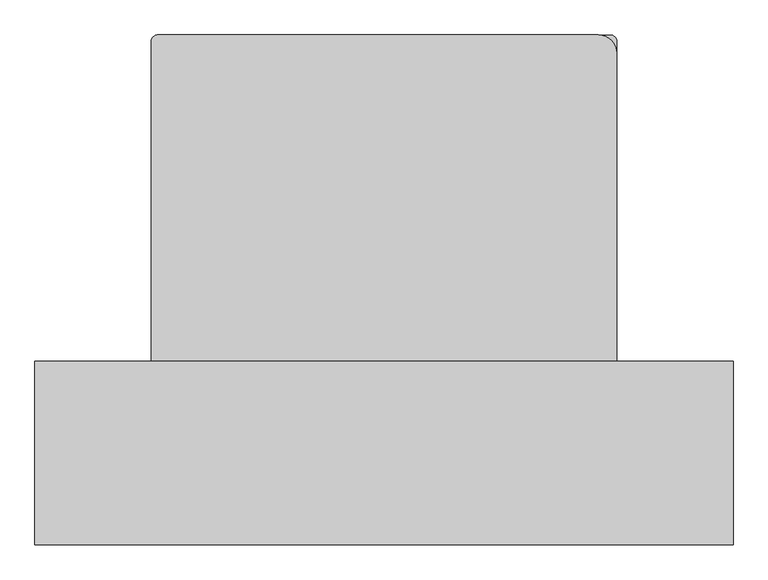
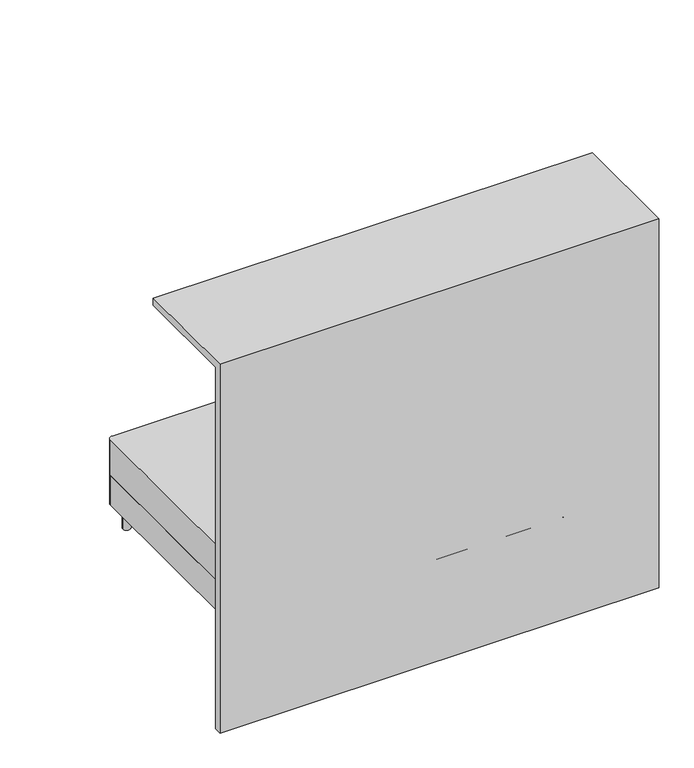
"""IFC4 building model written with IfcOpenShell, lengths in millimetres: furniture geometry, CAMA HABITACIONES : 180cmx200cmx60cm (dos camas) 3."""

import ifcopenshell
import ifcopenshell.guid

model = None  # the IFC model being written
_history = None  # IfcOwnerHistory: only IFC2X3 demands one
_inside = {}  # id of a spatial element -> (the spatial element, [elements in it])
_under = {}  # id of a project, library or spatial element -> (it, [spatial elements below it])
_declared = {}  # id of a project -> (the project, [libraries it declares])
_typed = {}  # id of a type object -> (the type object, [elements of that type])
_made_of = {}  # id of a material, layer set ... -> (it, [elements and type objects made of it])


def new_model(schema):
    """Start an empty IFC model of exactly this schema.

    Asked for "IFC4X3", IfcOpenShell would pick the latest addendum, in which some entities
    have other attributes; the version numbers below select the first issue.
    IFC2X3 requires an IfcOwnerHistory on every rooted entity: one is made here for all.
    """
    global model, _history
    if schema == "IFC4X3":
        model = ifcopenshell.file(schema_version=(4, 3, 0, 0))
    else:
        model = ifcopenshell.file(schema=schema)
    _inside.clear()
    _under.clear()
    _declared.clear()
    _typed.clear()
    _made_of.clear()
    _history = None
    if model.schema == "IFC2X3":
        org = make("IfcOrganization", Name="unknown")
        user = make(
            "IfcPersonAndOrganization",
            ThePerson=make("IfcPerson", FamilyName="unknown"),
            TheOrganization=org,
        )
        app = make(
            "IfcApplication",
            ApplicationDeveloper=org,
            Version="unknown",
            ApplicationFullName="unknown",
            ApplicationIdentifier="unknown",
        )
        _history = make(
            "IfcOwnerHistory",
            OwningUser=user,
            OwningApplication=app,
            ChangeAction="ADDED",
            CreationDate=0,
        )
    return model


def make(cls, **values):
    """One entity of the class cls with the attributes given. An attribute that is None is left unset."""
    return model.create_entity(
        cls, **{name: value for name, value in values.items() if value is not None}
    )


def rooted(cls, **values):
    """An entity with a GlobalId (a new one), such as an element, a storey or a relation."""
    return make(cls, GlobalId=ifcopenshell.guid.new(), OwnerHistory=_history, **values)


def si_unit(unit_type, name, prefix=None):
    """IfcSIUnit, for example si_unit("LENGTHUNIT", "METRE", prefix="MILLI")."""
    return make("IfcSIUnit", UnitType=unit_type, Prefix=prefix, Name=name)


def assignment(units):
    """IfcUnitAssignment: the units of a project."""
    return None if units is None else make("IfcUnitAssignment", Units=units)


def point(xyz):
    """IfcCartesianPoint."""
    return None if xyz is None else make("IfcCartesianPoint", Coordinates=xyz)


def direction(xyz):
    """IfcDirection."""
    return None if xyz is None else make("IfcDirection", DirectionRatios=xyz)


def frame(location, z_axis=None, x_axis=None):
    """IfcAxis2Placement3D, a coordinate frame: its origin and axes. An axis left out is left unset."""
    return make(
        "IfcAxis2Placement3D",
        Location=point(location),
        Axis=direction(z_axis),
        RefDirection=direction(x_axis),
    )


def frame_2d(location, x_axis=None):
    """IfcAxis2Placement2D, a coordinate frame in the plane: its origin and x axis."""
    return make(
        "IfcAxis2Placement2D", Location=point(location), RefDirection=direction(x_axis)
    )


def origin():
    """The frame at (0, 0, 0) with its axes left unset."""
    return frame((0.0, 0.0, 0.0))


def origin_with_axes():
    """The frame at (0, 0, 0) with the z axis (0, 0, 1) and the x axis (1, 0, 0) written out."""
    return frame((0.0, 0.0, 0.0), z_axis=(0.0, 0.0, 1.0), x_axis=(1.0, 0.0, 0.0))


def place(relative_to, where):
    """IfcLocalPlacement: puts the frame where relative to a parent placement (None: the world)."""
    return make(
        "IfcLocalPlacement", PlacementRelTo=relative_to, RelativePlacement=where
    )


def context(
    kind, dimensions, precision=None, world=None, true_north=None, identifier=None
):
    """IfcGeometricRepresentationContext, for example the 3D "Model" context."""
    return make(
        "IfcGeometricRepresentationContext",
        ContextIdentifier=identifier,
        ContextType=kind,
        CoordinateSpaceDimension=dimensions,
        Precision=precision,
        WorldCoordinateSystem=world,
        TrueNorth=true_north,
    )


def project(units=None, contexts=None):
    """IfcProject with its units and contexts."""
    return rooted(
        "IfcProject",
        Name="project",
        RepresentationContexts=contexts,
        UnitsInContext=assignment(units),
    )


def spatial(cls, under=None, at=None, **own):
    """A site, building, storey or space (cls), placed at a placement, below another one or the project."""
    s = rooted(cls, ObjectPlacement=at, **own)
    if under is not None:
        _under.setdefault(under.id(), (under, []))[1].append(s)
    return s


def polyline(points):
    """IfcPolyline through the points."""
    return make("IfcPolyline", Points=[point(p) for p in points])


def circle_curve(where, radius):
    """IfcCircle in the frame where."""
    return make("IfcCircle", Position=where, Radius=radius)


def trimmed(basis, trim1, trim2, sense, master):
    """IfcTrimmedCurve: the piece of a basis curve between two trims."""
    return make(
        "IfcTrimmedCurve",
        BasisCurve=basis,
        Trim1=trim1,
        Trim2=trim2,
        SenseAgreement=sense,
        MasterRepresentation=master,
    )


def segment(curve, same_sense, transition):
    """IfcCompositeCurveSegment."""
    return make(
        "IfcCompositeCurveSegment",
        Transition=transition,
        SameSense=same_sense,
        ParentCurve=curve,
    )


def composite_curve(segments, self_intersect=None):
    """IfcCompositeCurve: segments joined end to end."""
    return make("IfcCompositeCurve", Segments=segments, SelfIntersect=self_intersect)


def outline(outer, holes=None, kind="AREA"):
    """IfcArbitraryClosedProfileDef: a profile drawn as a closed curve; with holes, ...WithVoids."""
    if holes is None:
        return make("IfcArbitraryClosedProfileDef", ProfileType=kind, OuterCurve=outer)
    return make(
        "IfcArbitraryProfileDefWithVoids",
        ProfileType=kind,
        OuterCurve=outer,
        InnerCurves=holes,
    )


def extrude(swept, where, along, depth):
    """IfcExtrudedAreaSolid: the profile swept, set in the frame where, extruded along a direction by depth."""
    return make(
        "IfcExtrudedAreaSolid",
        SweptArea=swept,
        Position=where,
        ExtrudedDirection=direction(along),
        Depth=depth,
    )


def shape(context_of_items, identifier, shape_type, items):
    """IfcShapeRepresentation: the items that make up one representation, for example the "Body"."""
    return make(
        "IfcShapeRepresentation",
        ContextOfItems=context_of_items,
        RepresentationIdentifier=identifier,
        RepresentationType=shape_type,
        Items=items,
    )


def source(mapping_origin, context_of_items, identifier, shape_type, items):
    """IfcRepresentationMap: a shape defined once, which mapped items show again and again."""
    return make(
        "IfcRepresentationMap",
        MappingOrigin=mapping_origin,
        MappedRepresentation=shape(context_of_items, identifier, shape_type, items),
    )


def transform(
    local_origin,
    x_axis=None,
    y_axis=None,
    z_axis=None,
    scale=None,
    scale2=None,
    scale3=None,
    uniform=True,
):
    """IfcCartesianTransformationOperator3D, or its non-uniform kind. x_axis, y_axis, z_axis: its Axis1, 2, 3."""
    if uniform:
        return make(
            "IfcCartesianTransformationOperator3D",
            Axis1=direction(x_axis),
            Axis2=direction(y_axis),
            LocalOrigin=point(local_origin),
            Scale=scale,
            Axis3=direction(z_axis),
        )
    return make(
        "IfcCartesianTransformationOperator3DnonUniform",
        Axis1=direction(x_axis),
        Axis2=direction(y_axis),
        LocalOrigin=point(local_origin),
        Scale=scale,
        Axis3=direction(z_axis),
        Scale2=scale2,
        Scale3=scale3,
    )


def mapped(mapping_source, mapping_target):
    """IfcMappedItem: shows the shape of a source again, moved by a transform."""
    return make(
        "IfcMappedItem", MappingSource=mapping_source, MappingTarget=mapping_target
    )


def made_of(thing, what):
    """Note that an element or type object is made of a material, layer set ...; save() writes the relation."""
    if what is not None:
        _made_of.setdefault(what.id(), (what, []))[1].append(thing)
    return thing


def element(
    cls,
    number,
    at=None,
    inside=None,
    cuts=None,
    type_object=None,
    material=None,
    context=None,
    identifier="Body",
    shape_type=None,
    held_by="IfcProductDefinitionShape",
    body=None,
    shapes=None,
    **own,
):
    """One element of the class cls, such as IfcWall. Its Tag is "e" and its number.

    at: its placement. inside: the storey or other place that contains it. cuts: it is an
    opening in that element (IfcRelVoidsElement). A single representation is given by context,
    identifier, shape_type and body (its items); several are given by shapes. held_by: the class
    of the entity that holds the representations. save() writes the other relations.
    """
    e = rooted(cls, Tag="e%d" % number, ObjectPlacement=at, **own)
    if body is not None:
        shapes = [shape(context, identifier, shape_type, body)]
    if shapes is not None:
        e.Representation = make(held_by, Representations=shapes)
    if inside is not None:
        _inside.setdefault(inside.id(), (inside, []))[1].append(e)
    if cuts is not None:
        rooted(
            "IfcRelVoidsElement", RelatingBuildingElement=cuts, RelatedOpeningElement=e
        )
    if type_object is not None:
        _typed.setdefault(type_object.id(), (type_object, []))[1].append(e)
    return made_of(e, material)


def aggregate(whole, parts):
    """IfcRelAggregates: a whole, such as a stair, and the parts it consists of."""
    return rooted("IfcRelAggregates", RelatingObject=whole, RelatedObjects=parts)


def save(model, path):
    """Write the relations noted so far, then the file.

    IfcRelAggregates (storeys below a building ...), IfcRelContainedInSpatialStructure (elements
    in a storey), IfcRelDefinesByType, IfcRelAssociatesMaterial and IfcRelDeclares: one each for
    every whole, place, type object, material and project.
    """
    for whole, parts in _under.values():
        aggregate(whole, parts)
    for where, things in _inside.values():
        rooted(
            "IfcRelContainedInSpatialStructure",
            RelatedElements=things,
            RelatingStructure=where,
        )
    for kind, things in _typed.values():
        rooted("IfcRelDefinesByType", RelatedObjects=things, RelatingType=kind)
    for what, things in _made_of.values():
        rooted("IfcRelAssociatesMaterial", RelatedObjects=things, RelatingMaterial=what)
    for by, libraries in _declared.values():
        rooted("IfcRelDeclares", RelatingContext=by, RelatedDefinitions=libraries)
    model.write(path)


def furniture_52f5ca33(model_context):
    return source(origin(), model_context, "Body", "SweptSolid", [
        extrude(outline(composite_curve([segment(trimmed(circle_curve(frame_2d((-609.2577707, 774.6)), 25.4), [point((-609.2577707, 800.0))], [point((-583.8577707, 774.6))], False, "CARTESIAN"), True, "CONTINUOUS"), segment(polyline([(-583.8577707, 774.6), (-583.8577707, 625.4)]), True, "CONTINUOUS"), segment(trimmed(circle_curve(frame_2d((-609.2577707, 625.4)), 25.4), [point((-583.8577707, 625.4))], [point((-609.2577707, 600.0))], False, "CARTESIAN"), True, "CONTINUOUS"), segment(polyline([(-609.2577707, 600.0), (-889.3339743, 600.0)]), True, "CONTINUOUS"), segment(trimmed(circle_curve(frame_2d((-889.3339743, 628.7237964)), 28.7237964), [point((-889.3339743, 600.0))], [point((-918.0577707, 628.7237964))], False, "CARTESIAN"), True, "CONTINUOUS"), segment(polyline([(-918.0577707, 628.7237964), (-918.0577707, 767.4275972)]), True, "CONTINUOUS"), segment(trimmed(circle_curve(frame_2d((-885.4853679, 767.4275972)), 32.5724028), [point((-918.0577707, 767.4275972))], [point((-885.4853679, 800.0))], False, "CARTESIAN"), True, "CONTINUOUS"), segment(polyline([(-885.4853679, 800.0), (-609.2577707, 800.0)]), True, "CONTINUOUS")], self_intersect=False)), frame((323.2558032, 0.0, 0.0), z_axis=(1.0, 0.0, 0.0), x_axis=(0.0, 1.0, 0.0)), (0.0, 0.0, 1.0), 822.0327213),
        extrude(outline(composite_curve([segment(trimmed(circle_curve(frame_2d((-653.1114754, 1036.195082)), 25.4), [point((-678.5114754, 1036.195082))], [point((-653.1114754, 1061.595082))], False, "CARTESIAN"), True, "CONTINUOUS"), segment(polyline([(-653.1114754, 1061.595082), (1196.0885246, 1061.595082)]), True, "CONTINUOUS"), segment(trimmed(circle_curve(frame_2d((1196.0885246, 1036.195082)), 25.4), [point((1196.0885246, 1061.595082))], [point((1221.4885246, 1036.195082))], False, "CARTESIAN"), True, "CONTINUOUS"), segment(polyline([(1221.4885246, 1036.195082), (1221.4885246, -945.004918)]), True, "CONTINUOUS"), segment(trimmed(circle_curve(frame_2d((1196.0885246, -945.004918)), 25.4), [point((1221.4885246, -945.004918))], [point((1196.0885246, -970.404918))], False, "CARTESIAN"), True, "CONTINUOUS"), segment(polyline([(1196.0885246, -970.404918), (-653.1114754, -970.404918)]), True, "CONTINUOUS"), segment(trimmed(circle_curve(frame_2d((-653.1114754, -945.004918)), 25.4), [point((-653.1114754, -970.404918))], [point((-678.5114754, -945.004918))], False, "CARTESIAN"), True, "CONTINUOUS"), segment(polyline([(-678.5114754, -945.004918), (-678.5114754, 1036.195082)]), True, "CONTINUOUS")], self_intersect=False)), frame((0.0, 0.0, 152.4), z_axis=(0.0, 0.0, 1.0), x_axis=(1.0, 0.0, 0.0)), (0.0, 0.0, 1.0), 203.2),
        extrude(outline(composite_curve([segment(polyline([(-583.8577707, 774.6), (-583.8577707, 625.4)]), True, "CONTINUOUS"), segment(trimmed(circle_curve(frame_2d((-609.2577707, 625.4)), 25.4), [point((-583.8577707, 625.4))], [point((-609.2577707, 600.0))], False, "CARTESIAN"), True, "CONTINUOUS"), segment(polyline([(-609.2577707, 600.0), (-889.3339743, 600.0)]), True, "CONTINUOUS"), segment(trimmed(circle_curve(frame_2d((-889.3339743, 628.7237964)), 28.7237964), [point((-889.3339743, 600.0))], [point((-918.0577707, 628.7237964))], False, "CARTESIAN"), True, "CONTINUOUS"), segment(polyline([(-918.0577707, 628.7237964), (-918.0577707, 767.4275972)]), True, "CONTINUOUS"), segment(trimmed(circle_curve(frame_2d((-885.4853679, 767.4275972)), 32.5724028), [point((-918.0577707, 767.4275972))], [point((-885.4853679, 800.0))], False, "CARTESIAN"), True, "CONTINUOUS"), segment(polyline([(-885.4853679, 800.0), (-609.2577707, 800.0)]), True, "CONTINUOUS"), segment(trimmed(circle_curve(frame_2d((-609.2577707, 774.6)), 25.4), [point((-609.2577707, 800.0))], [point((-583.8577707, 774.6))], False, "CARTESIAN"), True, "CONTINUOUS")], self_intersect=False)), frame((-602.3114754, 0.0, 0.0), z_axis=(1.0, 0.0, 0.0), x_axis=(0.0, 1.0, 0.0)), (0.0, 0.0, 1.0), 822.0327213),
        extrude(outline(composite_curve([segment(trimmed(circle_curve(frame_2d((-602.3114754, -894.204918)), 25.4), [point((-627.7114754, -894.204918))], [point((-576.9114754, -894.204918))], False, "CARTESIAN"), True, "CONTINUOUS"), segment(trimmed(circle_curve(frame_2d((-602.3114754, -894.204918)), 25.4), [point((-576.9114754, -894.204918))], [point((-627.7114754, -894.204918))], False, "CARTESIAN"), True, "CONTINUOUS")], self_intersect=False)), origin_with_axes(), (0.0, 0.0, 1.0), 152.4),
        extrude(outline(composite_curve([segment(trimmed(circle_curve(frame_2d((1145.2885246, -894.204918)), 25.4), [point((1119.8885246, -894.204918))], [point((1170.6885246, -894.204918))], False, "CARTESIAN"), True, "CONTINUOUS"), segment(trimmed(circle_curve(frame_2d((1145.2885246, -894.204918)), 25.4), [point((1170.6885246, -894.204918))], [point((1119.8885246, -894.204918))], False, "CARTESIAN"), True, "CONTINUOUS")], self_intersect=False)), origin_with_axes(), (0.0, 0.0, 1.0), 152.4),
        extrude(outline(composite_curve([segment(trimmed(circle_curve(frame_2d((1145.2885246, 985.395082)), 25.4), [point((1119.8885246, 985.395082))], [point((1170.6885246, 985.395082))], False, "CARTESIAN"), True, "CONTINUOUS"), segment(trimmed(circle_curve(frame_2d((1145.2885246, 985.395082)), 25.4), [point((1170.6885246, 985.395082))], [point((1119.8885246, 985.395082))], False, "CARTESIAN"), True, "CONTINUOUS")], self_intersect=False)), origin_with_axes(), (0.0, 0.0, 1.0), 152.4),
        extrude(outline(composite_curve([segment(trimmed(circle_curve(frame_2d((-602.3114754, 985.395082)), 25.4), [point((-627.7114754, 985.395082))], [point((-576.9114754, 985.395082))], False, "CARTESIAN"), True, "CONTINUOUS"), segment(trimmed(circle_curve(frame_2d((-602.3114754, 985.395082)), 25.4), [point((-576.9114754, 985.395082))], [point((-627.7114754, 985.395082))], False, "CARTESIAN"), True, "CONTINUOUS")], self_intersect=False)), origin_with_axes(), (0.0, 0.0, 1.0), 152.4),
        extrude(outline(composite_curve([segment(trimmed(circle_curve(frame_2d((-653.1114754, -945.004918)), 25.4), [point((-653.1114754, -970.404918))], [point((-678.5114754, -945.004918))], False, "CARTESIAN"), True, "CONTINUOUS"), segment(polyline([(-678.5114754, -945.004918), (-678.5114754, 1036.195082)]), True, "CONTINUOUS"), segment(trimmed(circle_curve(frame_2d((-653.1114754, 1036.195082)), 25.4), [point((-678.5114754, 1036.195082))], [point((-653.1114754, 1061.595082))], False, "CARTESIAN"), True, "CONTINUOUS"), segment(polyline([(-653.1114754, 1061.595082), (1146.0885246, 1061.595082)]), True, "CONTINUOUS"), segment(trimmed(circle_curve(frame_2d((1146.0885246, 986.195082)), 75.4), [point((1146.0885246, 1061.595082))], [point((1221.4885246, 986.195082))], False, "CARTESIAN"), True, "CONTINUOUS"), segment(polyline([(1221.4885246, 986.195082), (1221.4885246, -904.504918)]), True, "CONTINUOUS"), segment(trimmed(circle_curve(frame_2d((1155.5885246, -904.504918)), 65.9), [point((1221.4885246, -904.504918))], [point((1155.5885246, -970.404918))], False, "CARTESIAN"), True, "CONTINUOUS"), segment(polyline([(1155.5885246, -970.404918), (-653.1114754, -970.404918)]), True, "CONTINUOUS")], self_intersect=False)), frame((0.0, 0.0, 355.6), z_axis=(0.0, 0.0, 1.0), x_axis=(1.0, 0.0, 0.0)), (0.0, 0.0, 1.0), 244.4),
        extrude(outline(polyline([(-1020.404918, 0.0), (-1020.404918, 2530.0799139), (-270.404918, 2530.0799139), (-270.404918, 2480.0799139), (-970.404918, 2480.0799139), (-970.404918, 0.0), (-1020.404918, 0.0)])), frame((-1153.5114754, 0.0, 0.0), z_axis=(1.0, 0.0, 0.0), x_axis=(0.0, 1.0, 0.0)), (0.0, 0.0, 1.0), 2850.0),
    ])


if __name__ == "__main__":
    model = new_model("IFC4")
    model_context = context("Model", 3, world=origin())
    ifc_project = project(units=[si_unit("LENGTHUNIT", "METRE", prefix="MILLI")], contexts=[model_context])
    site = spatial("IfcSite", under=ifc_project)
    building = spatial("IfcBuilding", under=site)
    placement = place(None, origin())
    furniture_shape = furniture_52f5ca33(model_context)
    element("IfcFurniture", 1, ObjectType="CAMA HABITACIONES : 180cmx200cmx60cm (dos camas) 3", at=placement, inside=building, context=model_context, shape_type="MappedRepresentation", body=[
        mapped(furniture_shape, transform((0.0, 0.0, 0.0), x_axis=(1.0, 0.0, 0.0), y_axis=(0.0, 1.0, 0.0), z_axis=(0.0, 0.0, 1.0))),
    ])
    save(model, "model.ifc")
